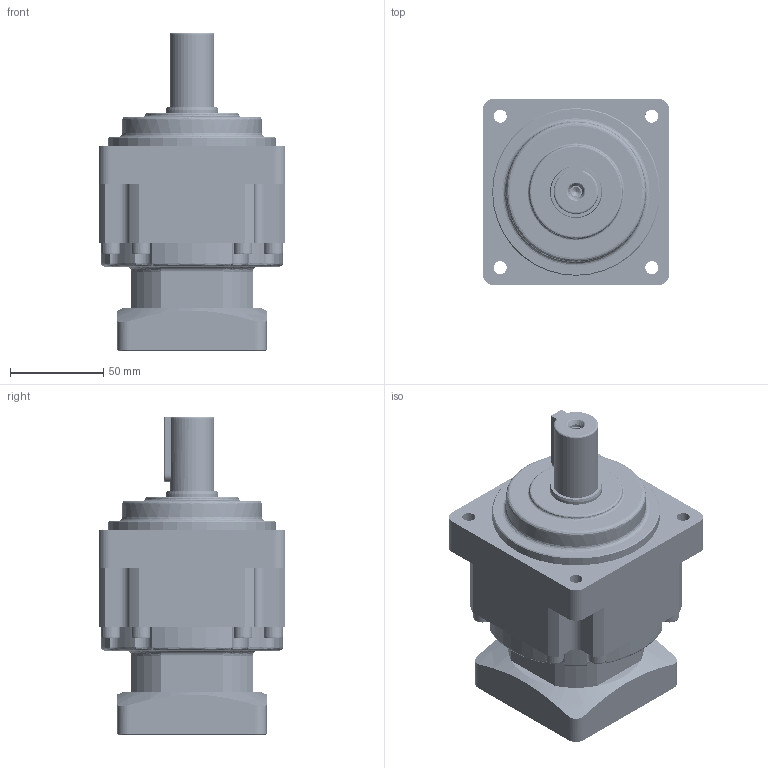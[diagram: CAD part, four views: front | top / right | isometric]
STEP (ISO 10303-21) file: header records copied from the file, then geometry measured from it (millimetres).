
FILE_DESCRIPTION (( 'STEP AP214' ), '1' );
FILE_NAME ('VRSF100-L2-S2-P2 19-70-90-M6.STEP', '2022-02-14T05:23:53', ( 'Admin' ), ( '' ), 'SwSTEP 2.0', 'SolidWorks 2018', '' );
FILE_SCHEMA (( 'AUTOMOTIVE_DESIGN' ));
Length unit declared in the file: millimetre
Products named in the file (12): C8X7X35; VRSF100-604_2; VRSF100-604; VRSF100-623-001_2; M6-25; VRSF100-623-001; M5-20; VRSF100-626-004; M6-20; VRSF100-L2-S2-P2 19-70-90-M6; VRSF100-626-004_2; VRSF100-605-001
Assembly tree (21 placements, depth 2):
  VRSF100-L2-S2-P2 19-70-90-M6
    VRSF100-604
    VRSF100-604_2
    VRSF100-605-001
    VRSF100-626-004
    VRSF100-626-004_2
    VRSF100-623-001_2
    VRSF100-623-001
    M6-20
    M5-20  x4
    M6-25  x8
    C8X7X35
Bounding box: 100 x 100 x 171 mm (x, y, z)
Volume: 843962.4 mm3; surface area: 126630.1 mm2
Topology: 18 solids, 28 shells, 3570 faces, 7852 edges, 4332 vertices
Faces by surface type: cone 2056, cylinder 1166, plane 293, bspline 55
Entity records: 32844 total; most frequent: CARTESIAN_POINT 8099, DIRECTION 5580, ORIENTED_EDGE 4790, EDGE_CURVE 2416, AXIS2_PLACEMENT_3D 2236, VERTEX_POINT 1403, CIRCLE 1186, EDGE_LOOP 1115
